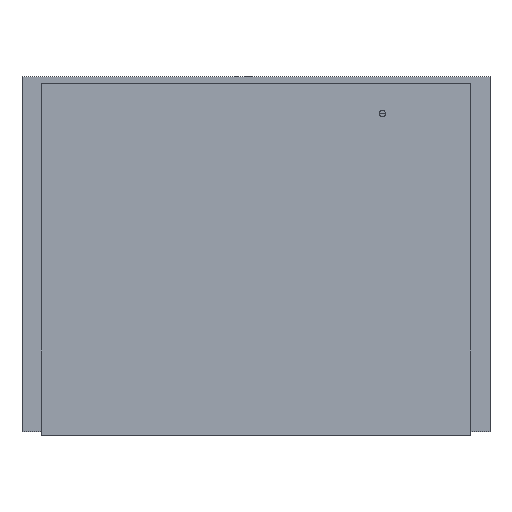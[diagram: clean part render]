
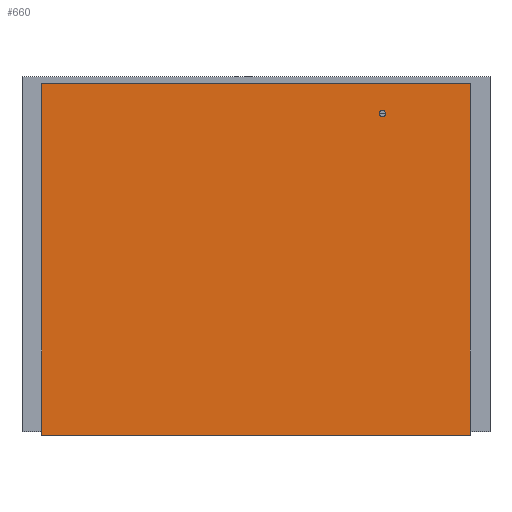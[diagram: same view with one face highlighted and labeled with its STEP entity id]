
A CAD part, left-side view. The second image highlights one B-rep face of the part: STEP entity #660.
In plain terms, the highlighted free-form (B-spline) face has degree [3, 3] with [10, 4] control points.
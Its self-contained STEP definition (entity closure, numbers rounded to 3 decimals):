
#660=ADVANCED_FACE('',(#915),#3021,.T.);
#915=FACE_OUTER_BOUND('',#1171,.T.);
#1171=EDGE_LOOP('',(#1840,#1841,#1842,#1843));
#1840=ORIENTED_EDGE('',*,*,#2461,.F.);
#1841=ORIENTED_EDGE('',*,*,#2464,.T.);
#1842=ORIENTED_EDGE('',*,*,#2465,.T.);
#1843=ORIENTED_EDGE('',*,*,#2466,.F.);
#2461=EDGE_CURVE('',#2820,#2822,#3532,.T.);
#2464=EDGE_CURVE('',#2820,#2824,#3535,.T.);
#2465=EDGE_CURVE('',#2824,#2825,#3536,.T.);
#2466=EDGE_CURVE('',#2822,#2825,#3537,.T.);
#2820=VERTEX_POINT('',#13006);
#2822=VERTEX_POINT('',#13008);
#2824=VERTEX_POINT('',#13010);
#2825=VERTEX_POINT('',#13011);
#3021=B_SPLINE_SURFACE_WITH_KNOTS('',3,3,((#12906,#12907,#12908,#12909),
(#12910,#12911,#12912,#12913),(#12914,#12915,#12916,#12917),(#12918,#12919,
#12920,#12921),(#12922,#12923,#12924,#12925),(#12926,#12927,#12928,#12929),
(#12930,#12931,#12932,#12933),(#12934,#12935,#12936,#12937),(#12938,#12939,
#12940,#12941),(#12942,#12943,#12944,#12945)),.UNSPECIFIED.,.F.,.F.,.F.,
(4,3,3,4),(4,4),(0.,0.333,0.667,1.),(0.,1.),.UNSPECIFIED.);
#3532=B_SPLINE_CURVE_WITH_KNOTS('',1,(#12808,#12809),.UNSPECIFIED.,.F.,.F.,
(2,2),(0.,1.),.UNSPECIFIED.);
#3535=B_SPLINE_CURVE_WITH_KNOTS('',3,(#12814,#12815,#12816,#12817,#12818,
#12819,#12820,#12821,#12822,#12823),.UNSPECIFIED.,.F.,.F.,(4,3,3,4),(0.,
0.333,0.667,1.),.UNSPECIFIED.);
#3536=B_SPLINE_CURVE_WITH_KNOTS('',1,(#12824,#12825),.UNSPECIFIED.,.F.,.F.,
(2,2),(0.,1.),.UNSPECIFIED.);
#3537=B_SPLINE_CURVE_WITH_KNOTS('',3,(#12826,#12827,#12828,#12829,#12830,
#12831,#12832,#12833,#12834,#12835),.UNSPECIFIED.,.F.,.F.,(4,3,3,4),(0.,
0.333,0.667,1.),.UNSPECIFIED.);
#12808=CARTESIAN_POINT('',(-548.075,-272.5,0.046));
#12809=CARTESIAN_POINT('',(-548.075,272.5,0.046));
#12814=CARTESIAN_POINT('',(-548.075,-272.5,0.046));
#12815=CARTESIAN_POINT('',(-548.075,-272.5,49.712));
#12816=CARTESIAN_POINT('',(-548.075,-272.5,99.379));
#12817=CARTESIAN_POINT('',(-548.075,-272.5,149.046));
#12818=CARTESIAN_POINT('',(-548.075,-272.5,198.712));
#12819=CARTESIAN_POINT('',(-548.075,-272.5,248.379));
#12820=CARTESIAN_POINT('',(-548.075,-272.5,298.046));
#12821=CARTESIAN_POINT('',(-548.075,-272.5,347.712));
#12822=CARTESIAN_POINT('',(-548.075,-272.5,397.379));
#12823=CARTESIAN_POINT('',(-548.075,-272.5,447.046));
#12824=CARTESIAN_POINT('',(-548.075,-272.5,447.046));
#12825=CARTESIAN_POINT('',(-548.075,272.5,447.046));
#12826=CARTESIAN_POINT('',(-548.075,272.5,0.046));
#12827=CARTESIAN_POINT('',(-548.075,272.5,49.712));
#12828=CARTESIAN_POINT('',(-548.075,272.5,99.379));
#12829=CARTESIAN_POINT('',(-548.075,272.5,149.046));
#12830=CARTESIAN_POINT('',(-548.075,272.5,198.712));
#12831=CARTESIAN_POINT('',(-548.075,272.5,248.379));
#12832=CARTESIAN_POINT('',(-548.075,272.5,298.046));
#12833=CARTESIAN_POINT('',(-548.075,272.5,347.712));
#12834=CARTESIAN_POINT('',(-548.075,272.5,397.379));
#12835=CARTESIAN_POINT('',(-548.075,272.5,447.046));
#12906=CARTESIAN_POINT('',(-548.075,-272.5,0.046));
#12907=CARTESIAN_POINT('',(-548.075,-90.833,0.046));
#12908=CARTESIAN_POINT('',(-548.075,90.833,0.046));
#12909=CARTESIAN_POINT('',(-548.075,272.5,0.046));
#12910=CARTESIAN_POINT('',(-548.075,-272.5,49.712));
#12911=CARTESIAN_POINT('',(-548.075,-90.833,49.712));
#12912=CARTESIAN_POINT('',(-548.075,90.833,49.712));
#12913=CARTESIAN_POINT('',(-548.075,272.5,49.712));
#12914=CARTESIAN_POINT('',(-548.075,-272.5,99.379));
#12915=CARTESIAN_POINT('',(-548.075,-90.833,99.379));
#12916=CARTESIAN_POINT('',(-548.075,90.833,99.379));
#12917=CARTESIAN_POINT('',(-548.075,272.5,99.379));
#12918=CARTESIAN_POINT('',(-548.075,-272.5,149.046));
#12919=CARTESIAN_POINT('',(-548.075,-90.833,149.046));
#12920=CARTESIAN_POINT('',(-548.075,90.833,149.046));
#12921=CARTESIAN_POINT('',(-548.075,272.5,149.046));
#12922=CARTESIAN_POINT('',(-548.075,-272.5,198.712));
#12923=CARTESIAN_POINT('',(-548.075,-90.833,198.712));
#12924=CARTESIAN_POINT('',(-548.075,90.833,198.712));
#12925=CARTESIAN_POINT('',(-548.075,272.5,198.712));
#12926=CARTESIAN_POINT('',(-548.075,-272.5,248.379));
#12927=CARTESIAN_POINT('',(-548.075,-90.833,248.379));
#12928=CARTESIAN_POINT('',(-548.075,90.833,248.379));
#12929=CARTESIAN_POINT('',(-548.075,272.5,248.379));
#12930=CARTESIAN_POINT('',(-548.075,-272.5,298.046));
#12931=CARTESIAN_POINT('',(-548.075,-90.833,298.046));
#12932=CARTESIAN_POINT('',(-548.075,90.833,298.046));
#12933=CARTESIAN_POINT('',(-548.075,272.5,298.046));
#12934=CARTESIAN_POINT('',(-548.075,-272.5,347.712));
#12935=CARTESIAN_POINT('',(-548.075,-90.833,347.712));
#12936=CARTESIAN_POINT('',(-548.075,90.833,347.712));
#12937=CARTESIAN_POINT('',(-548.075,272.5,347.712));
#12938=CARTESIAN_POINT('',(-548.075,-272.5,397.379));
#12939=CARTESIAN_POINT('',(-548.075,-90.833,397.379));
#12940=CARTESIAN_POINT('',(-548.075,90.833,397.379));
#12941=CARTESIAN_POINT('',(-548.075,272.5,397.379));
#12942=CARTESIAN_POINT('',(-548.075,-272.5,447.046));
#12943=CARTESIAN_POINT('',(-548.075,-90.833,447.046));
#12944=CARTESIAN_POINT('',(-548.075,90.833,447.046));
#12945=CARTESIAN_POINT('',(-548.075,272.5,447.046));
#13006=CARTESIAN_POINT('',(-548.075,-272.5,0.046));
#13008=CARTESIAN_POINT('',(-548.075,272.5,0.046));
#13010=CARTESIAN_POINT('',(-548.075,-272.5,447.046));
#13011=CARTESIAN_POINT('',(-548.075,272.5,447.046));
